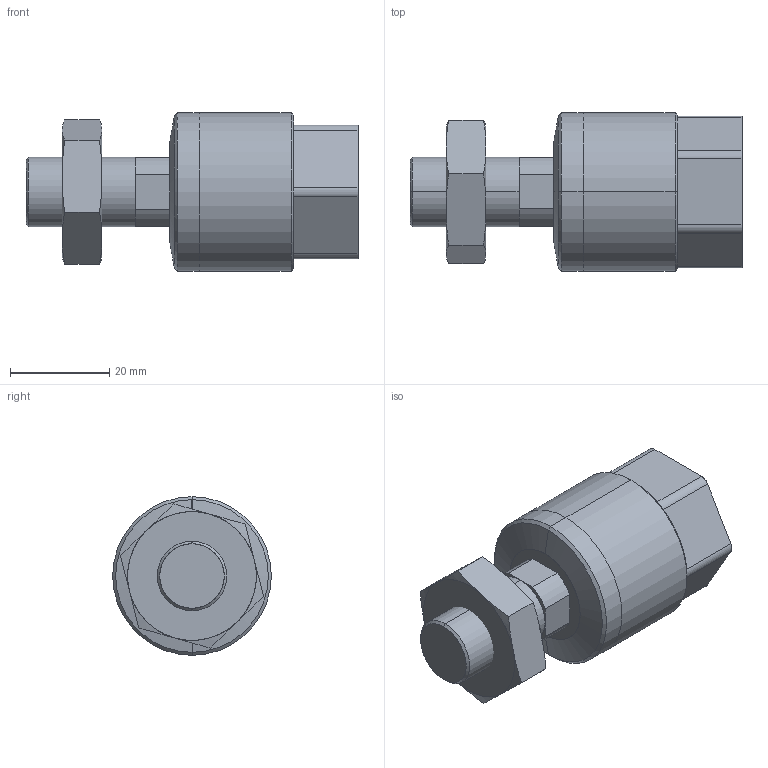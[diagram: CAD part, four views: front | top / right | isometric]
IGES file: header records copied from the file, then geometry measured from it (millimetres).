
Start section: SolidWorks IGES file using analytic representation for surfaces
Global section: file name: D:\MI\新增資料夾\FC\FCM14A-1.5.IGS; native system: SolidWorks 2013; preprocessor: SolidWorks 2013; author: Sam Lin; date: 160323.114139; units: millimetre
Bounding box: 67 x 32 x 32 mm (x, y, z)
Surface area: 9119.3 mm2 (no closed solid volume)
Topology: 0 solids, 0 shells, 68 faces, 838 edges, 836 vertices
Faces by surface type: bspline 38, revolution 30
